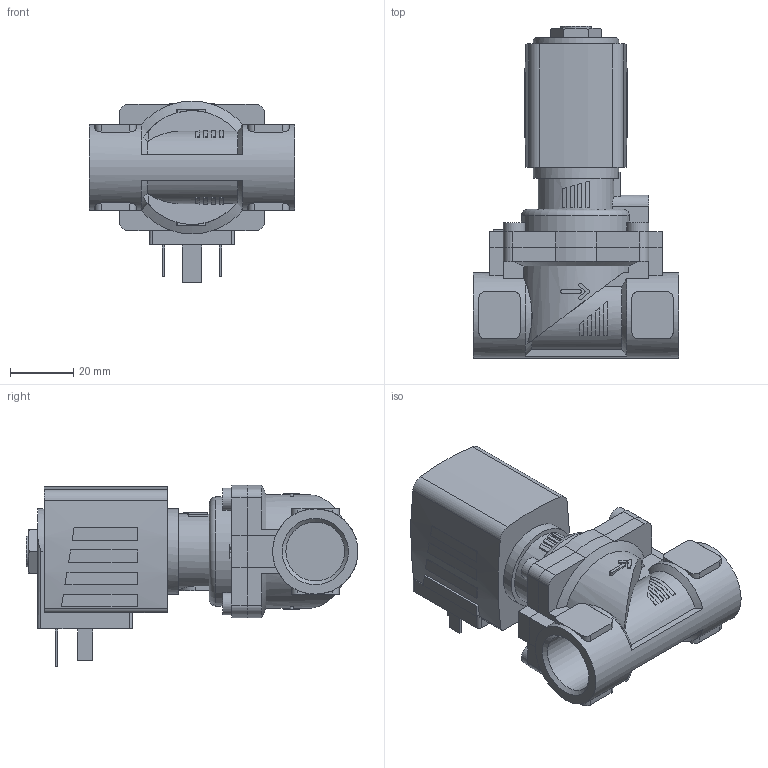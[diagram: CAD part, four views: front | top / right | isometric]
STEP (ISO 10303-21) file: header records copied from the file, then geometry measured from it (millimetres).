
FILE_DESCRIPTION(/* description */ ('STEP AP214'),/* implementation_level */ '2;1');
FILE_NAME(/* name */ '6281-369341-2_2-Way_Solenoid_Valve__Servo-assisted__General_Purpose',/* time_stamp */ '2024-06-21T17:02:26+02:00',/* author */ ('License CC BY-ND 4.0'),/* organization */ ('CADENAS'),/* preprocessor_version */ 'ST-DEVELOPER v19.3',/* originating_system */ 'PARTsolutions',/* authorisation */ ' ');
FILE_SCHEMA (('AUTOMOTIVE_DESIGN {1 0 10303 214 3 1 1}'));
Length unit declared in the file: millimetre
Products named in the file (4): 6281-369341-2/2-Way Solenoid Valve, Servo-assisted, General Purpose; 5281ev130VA2/2-Wege-Magnetventil mit Servomembran-Deckel 42 ; 6213-13G1/2VA-Gehaeuse-; AC10ex-5NA38-Plan-Coil
Assembly tree (3 placements, depth 2):
  6281-369341-2/2-Way Solenoid Valve, Servo-assisted, General Purpose
    5281ev130VA2/2-Wege-Magnetventil mit Servomembran-Deckel 42 
    6213-13G1/2VA-Gehaeuse-
    AC10ex-5NA38-Plan-Coil
Bounding box: 65 x 105 x 57.5 mm (x, y, z)
Volume: 119755.4 mm3; surface area: 29379.7 mm2
Topology: 3 solids, 3 shells, 349 faces, 884 edges, 578 vertices
Faces by surface type: plane 242, cylinder 91, cone 15, torus 1
Full cylindrical faces by diameter (mm): 2.013 x1, 7 x4, 9.74 x1, 18.631 x2, 27 x2
Entity records: 11827 total; most frequent: CARTESIAN_POINT 2061, DIRECTION 1758, ORIENTED_EDGE 1724, EDGE_CURVE 862, AXIS2_PLACEMENT_3D 616, VERTEX_POINT 572, LINE 526, VECTOR 526
